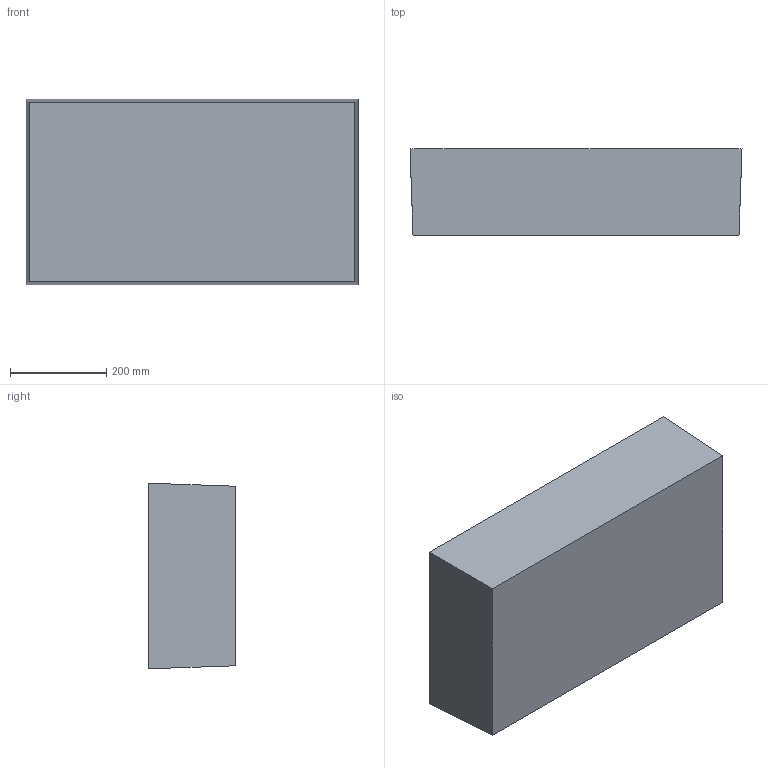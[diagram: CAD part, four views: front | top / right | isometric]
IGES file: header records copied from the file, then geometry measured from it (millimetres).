
Start section: SolidWorks IGES file using analytic representation for surfaces
Global section: file name: E:\Air Cases step files\OEM parts for 1485\1605 Bottom Tub.IGS; native system: SolidWorks 2016; preprocessor: SolidWorks 2016; author: mhakami; date: 160419.134621; units: inch
Bounding box: 691.19 x 180.34 x 386.39 mm (x, y, z)
Surface area: 1232293.7 mm2 (no closed solid volume)
Topology: 0 solids, 0 shells, 569 faces, 6093 edges, 6093 vertices
Faces by surface type: bspline 410, revolution 159
